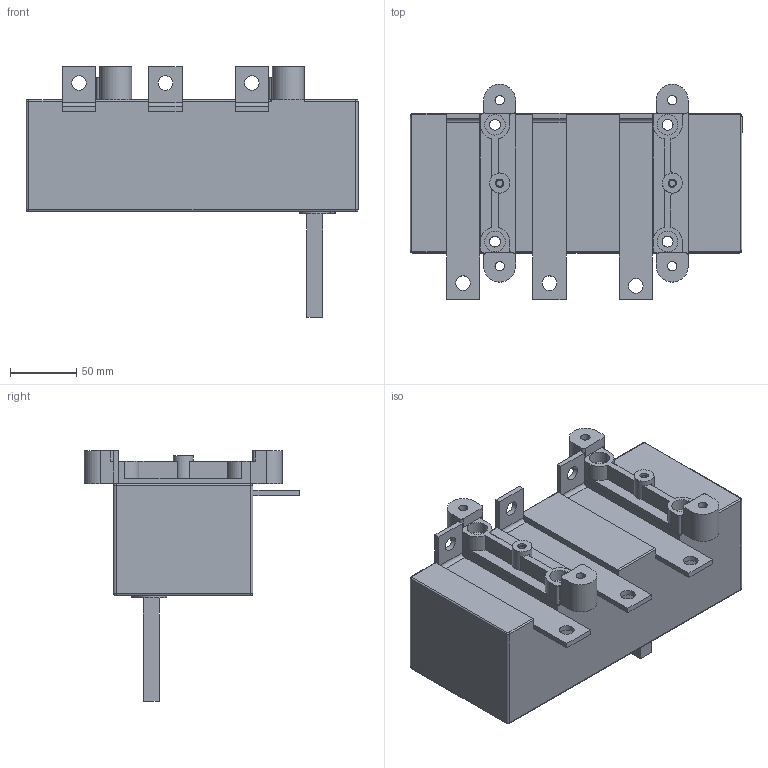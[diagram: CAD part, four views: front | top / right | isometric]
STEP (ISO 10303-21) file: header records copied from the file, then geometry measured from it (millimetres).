
FILE_DESCRIPTION(/* description */ (''),/* implementation_level */ '2;1');
FILE_NAME(/* name */ 'RA400 P3 B.stp',/* time_stamp */ '2021-08-18T14:16:08+02:00',/* author */ (''),/* organization */ (''),/* preprocessor_version */ 'ST-DEVELOPER v18.1',/* originating_system */ 'SIEMENS PLM Software NX 1965',/* authorisation */ '');
FILE_SCHEMA (('AUTOMOTIVE_DESIGN { 1 0 10303 214 3 1 1 1 }'));
Length unit declared in the file: millimetre
Products named in the file (1): RA400 P3 B
Bounding box: 250 x 162.29 x 189 mm (x, y, z)
Volume: 2256583.8 mm3; surface area: 162840.3 mm2
Topology: 1 solids, 1 shells, 218 faces, 570 edges, 371 vertices
Faces by surface type: plane 120, cylinder 90, bspline 8
Full cylindrical faces by diameter (mm): 4.8 x2, 6.2 x2, 7 x4, 8.2 x4, 11 x6, 14 x4, 15 x2, 15.5 x4
Entity records: 6744 total; most frequent: CARTESIAN_POINT 1274, DIRECTION 1158, ORIENTED_EDGE 1076, EDGE_CURVE 538, AXIS2_PLACEMENT_3D 411, VERTEX_POINT 364, LINE 336, VECTOR 336
